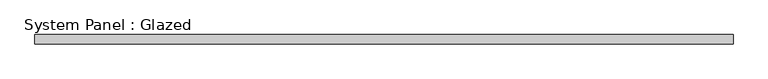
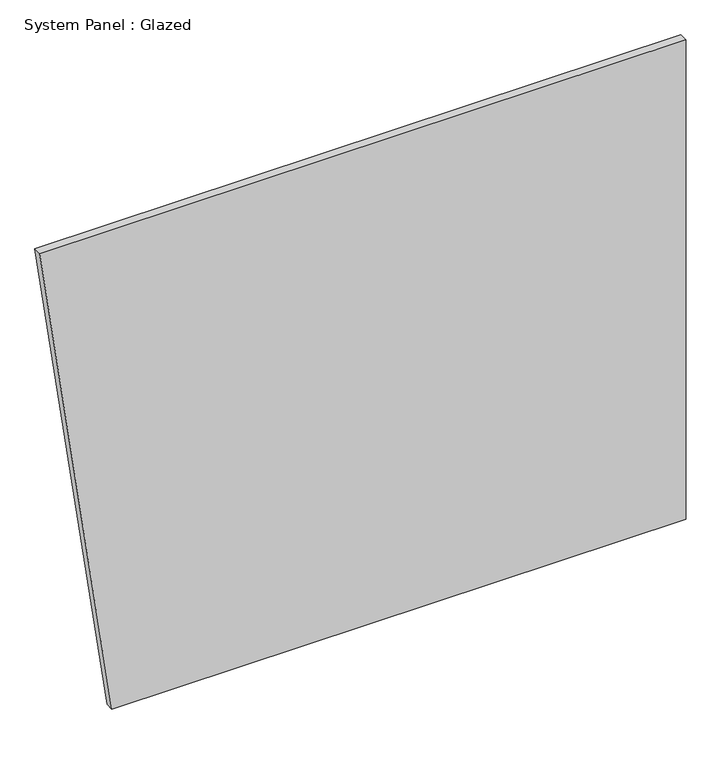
"""IFC4 building model written with IfcOpenShell, lengths in millimetres: plate geometry, System Panel : Glazed."""

from ifc_helpers import new_model, si_unit, frame, origin, place, context, project, spatial, polyline, outline, extrude, source, transform, mapped, element, save


def system_panel_glazed_32967763(model_context):
    return source(origin(), model_context, "Body", "SweptSolid", [
        extrude(outline(polyline([(0.0, -754.9762287), (0.0, 972.0215838), (1524.0, 972.0215838), (1524.0, -972.0215838), (0.0, -754.9762287)])), frame((0.0, 19.05, 0.0), z_axis=(0.0, 1.0, 0.0), x_axis=(0.0, 0.0, 1.0)), (0.0, 0.0, 1.0), 25.4),
    ])


if __name__ == "__main__":
    model = new_model("IFC4")
    model_context = context("Model", 3, world=origin())
    ifc_project = project(units=[si_unit("LENGTHUNIT", "METRE", prefix="MILLI")], contexts=[model_context])
    site = spatial("IfcSite", under=ifc_project)
    building = spatial("IfcBuilding", under=site)
    placement = place(None, origin())
    system_panel_glazed_shape = system_panel_glazed_32967763(model_context)
    element("IfcPlate", 1, ObjectType="System Panel : Glazed", at=placement, inside=building, context=model_context, shape_type="MappedRepresentation", body=[
        mapped(system_panel_glazed_shape, transform((0.0, 0.0, 0.0), x_axis=(1.0, 0.0, 0.0), y_axis=(0.0, 1.0, 0.0), z_axis=(0.0, 0.0, 1.0))),
    ])
    save(model, "model.ifc")
